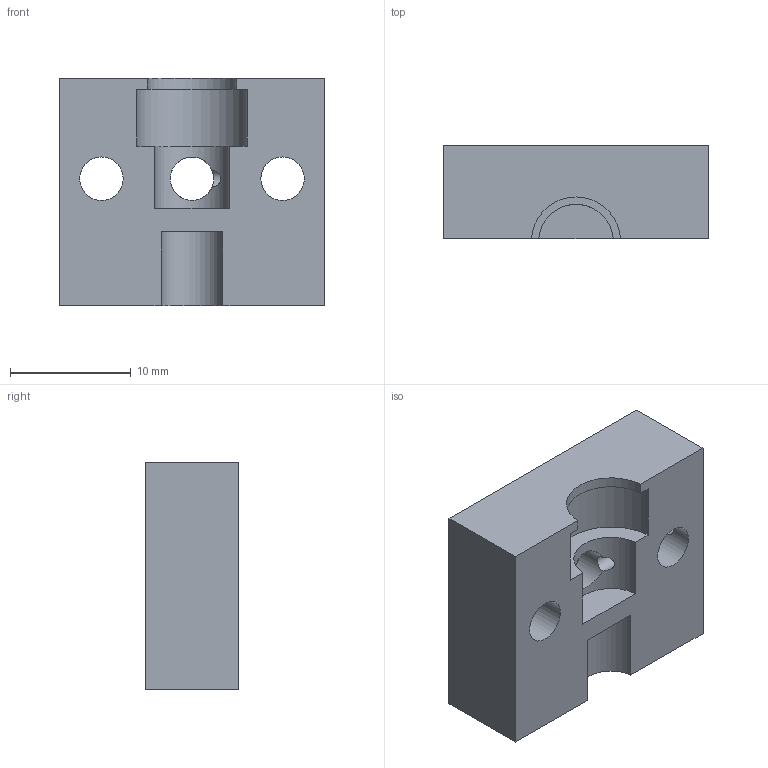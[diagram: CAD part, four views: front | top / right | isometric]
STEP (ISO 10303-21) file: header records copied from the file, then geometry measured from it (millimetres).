
FILE_DESCRIPTION(('Open CASCADE Model'),'2;1');
FILE_NAME('Open CASCADE Shape Model','2026-10-26T03:08:16',('Author'),( 'Open CASCADE'),'Open CASCADE STEP processor 7.9','build123d', 'Unknown');
FILE_SCHEMA(('AUTOMOTIVE_DESIGN { 1 0 10303 214 1 1 1 1 }'));
Length unit declared in the file: millimetre
Products named in the file (1): COMPOUND
Bounding box: 22 x 7.75 x 18.8 mm (x, y, z)
Volume: 2642.1 mm3; surface area: 1758.4 mm2
Topology: 1 solids, 1 shells, 24 faces, 69 edges, 46 vertices
Faces by surface type: plane 15, cylinder 9
Full cylindrical faces by diameter (mm): 1.4 x2, 3.6 x3
Entity records: 2820 total; most frequent: CARTESIAN_POINT 1533, DIRECTION 199, ORIENTED_EDGE 138, PCURVE 138, DEFINITIONAL_REPRESENTATION 138, LINE 112, VECTOR 112, EDGE_CURVE 69
